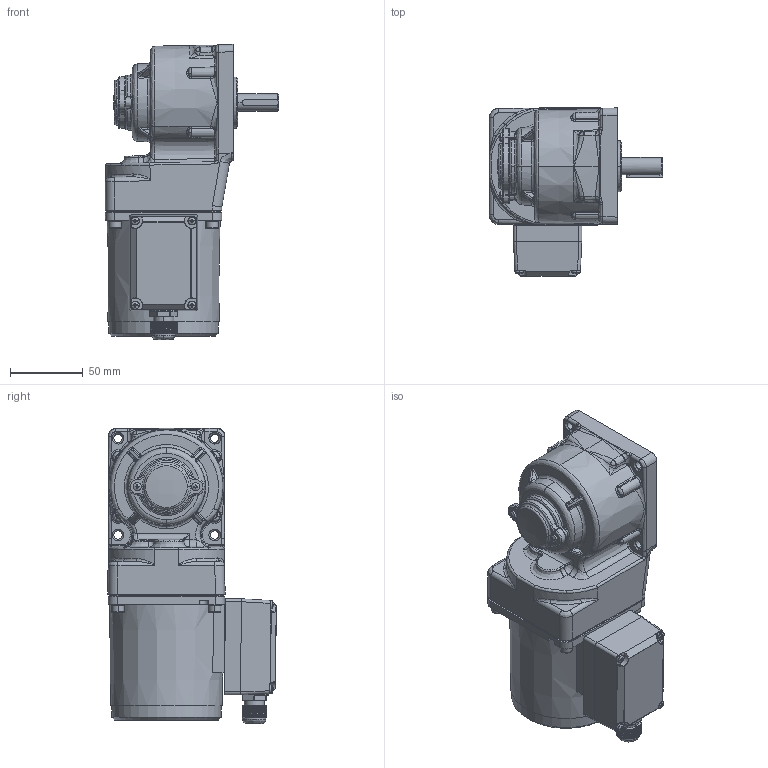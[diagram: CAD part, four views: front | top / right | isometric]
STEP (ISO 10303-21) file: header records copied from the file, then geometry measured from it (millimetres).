
FILE_DESCRIPTION (( 'STEP AP203' ), '1' );
FILE_NAME ('4IK25GN-CT(4GN3RT-180RT)ÐÂ.STEP', '2022-02-21T07:55:07', ( 'PC' ), ( 'Microsoft' ), 'SwSTEP 2.0', 'SolidWorks 2014', '' );
FILE_SCHEMA (( 'CONFIG_CONTROL_DESIGN' ));
Length unit declared in the file: millimetre
Products named in the file (14): 80眻褒眊裔; zd-4gn1000rc-504-001-20211209（PROE导出的版本）; 80妗陑怀堤粣; 80壔裔; 80綴傷裔; hexagon socket head cap screws gb_GB_FASTENER_SCREWS_HSHCS M4X12-N; cross recessed pan head screws gb_GB_CROSS_SCREWS_TYPE1 M3X6-6  H type-N; M5X20-S; TSJXH^70TSJXHG(2)_80JXH; M14SJQ^70TSJXHG(2)_80JXH; M3^70TSJXHG(2)_80JXH; 70TSJXHG(2)^80JXH; 80TSJXHJK; 4IK25GN-CT(4GN3RT-180RT)陔
Assembly tree (23 placements, depth 3):
  4IK25GN-CT(4GN3RT-180RT)陔
    80眻褒眊裔
    zd-4gn1000rc-504-001-20211209（PROE导出的版本）
    80妗陑怀堤粣
    80壔裔
    80綴傷裔
    hexagon socket head cap screws gb_GB_FASTENER_SCREWS_HSHCS M4X12-N  x4
    cross recessed pan head screws gb_GB_CROSS_SCREWS_TYPE1 M3X6-6  H type-N  x2
    M5X20-S  x4
    70TSJXHG(2)^80JXH
      TSJXH^70TSJXHG(2)_80JXH
      M14SJQ^70TSJXHG(2)_80JXH
      M3^70TSJXHG(2)_80JXH  x4
    80TSJXHJK
Bounding box: 119 x 115.74 x 202.79 mm (x, y, z)
Volume: 807112.6 mm3; surface area: 171325.5 mm2
Topology: 22 solids, 24 shells, 3037 faces, 7041 edges, 4017 vertices
Faces by surface type: cone 1117, cylinder 929, plane 493, bspline 488, torus 8, sphere 2
Entity records: 88200 total; most frequent: CARTESIAN_POINT 49333, ORIENTED_EDGE 8516, DIRECTION 6663, EDGE_CURVE 4258, AXIS2_PLACEMENT_3D 2596, VERTEX_POINT 2559, EDGE_LOOP 1901, ADVANCED_FACE 1798
